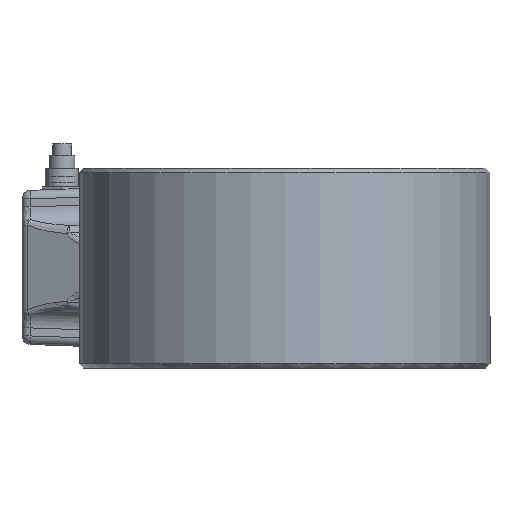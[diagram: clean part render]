
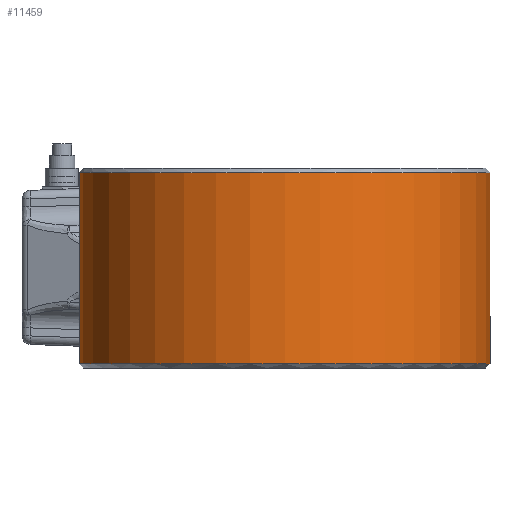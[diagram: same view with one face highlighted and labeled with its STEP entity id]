
A CAD part, left-side view. The second image highlights one B-rep face of the part: STEP entity #11459.
In plain terms, the highlighted cylindrical face has radius 72 mm (diameter 144 mm), a partial arc.
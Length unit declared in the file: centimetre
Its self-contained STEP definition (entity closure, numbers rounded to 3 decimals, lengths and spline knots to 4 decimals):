
#2185=VECTOR('',#15602,1.);
#2187=VECTOR('',#15604,1.);
#2719=LINE('',#45055,#2185);
#2721=LINE('',#45067,#2187);
#3810=VERTEX_POINT('',#45042);
#3811=VERTEX_POINT('',#45044);
#3815=VERTEX_POINT('',#45056);
#3818=VERTEX_POINT('',#45066);
#4473=CIRCLE('',#12729,7.2);
#4477=CIRCLE('',#12735,7.2);
#5957=EDGE_CURVE('',#3810,#3811,#4473,.T.);
#5962=EDGE_CURVE('',#3811,#3815,#2719,.T.);
#5966=EDGE_CURVE('',#3810,#3818,#2721,.T.);
#5968=EDGE_CURVE('',#3815,#3818,#4477,.T.);
#8934=ORIENTED_EDGE('',*,*,#5957,.F.);
#8935=ORIENTED_EDGE('',*,*,#5966,.T.);
#8936=ORIENTED_EDGE('',*,*,#5968,.F.);
#8937=ORIENTED_EDGE('',*,*,#5962,.F.);
#9834=EDGE_LOOP('',(#8934,#8935,#8936,#8937));
#10726=FACE_BOUND('',#9834,.T.);
#11459=ADVANCED_FACE('',(#10726),#45347,.T.);
#12729=AXIS2_PLACEMENT_3D('',#45043,#15593,#15594);
#12734=AXIS2_PLACEMENT_3D('',#45069,#15606,#15607);
#12735=AXIS2_PLACEMENT_3D('',#45070,#15608,#15609);
#15593=DIRECTION('',(0.,0.,1.));
#15594=DIRECTION('',(-7.2,0.,0.));
#15602=DIRECTION('',(0.,0.,-1.));
#15604=DIRECTION('',(0.,0.,-1.));
#15606=DIRECTION('',(0.,0.,-1.));
#15607=DIRECTION('',(-7.2,0.,0.));
#15608=DIRECTION('',(0.,0.,-1.));
#15609=DIRECTION('',(-7.2,0.,0.));
#45042=CARTESIAN_POINT('',(-5.519,-5.0841,5.5968));
#45043=CARTESIAN_POINT('',(-12.519,-6.7693,5.5968));
#45044=CARTESIAN_POINT('',(-5.519,-8.4546,5.5968));
#45055=CARTESIAN_POINT('',(-5.519,-8.4546,5.7468));
#45056=CARTESIAN_POINT('',(-5.519,-8.4546,-1.1032));
#45066=CARTESIAN_POINT('',(-5.519,-5.0841,-1.1032));
#45067=CARTESIAN_POINT('',(-5.519,-5.0841,5.7468));
#45069=CARTESIAN_POINT('',(-12.519,-6.7693,5.7468));
#45070=CARTESIAN_POINT('',(-12.519,-6.7693,-1.1032));
#45347=CYLINDRICAL_SURFACE('',#12734,7.2);
